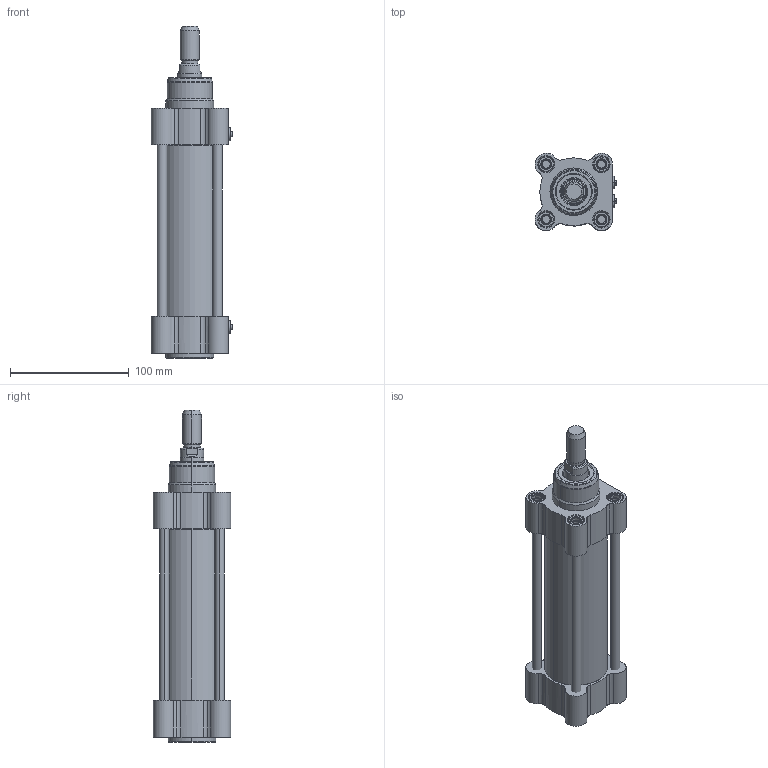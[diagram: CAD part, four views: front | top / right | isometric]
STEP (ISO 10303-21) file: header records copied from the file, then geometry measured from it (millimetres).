
FILE_DESCRIPTION (( 'STEP AP203' ), '1' );
FILE_NAME ('CTMI50-100.STEP', '2020-03-26T19:20:02', ( '' ), ( '' ), 'SwSTEP 2.0', 'SolidWorks 2019', '' );
FILE_SCHEMA (( 'CONFIG_CONTROL_DESIGN' ));
Length unit declared in the file: millimetre
Products named in the file (1): CTMI50-100
Bounding box: 68.69 x 64.99 x 279 mm (x, y, z)
Surface area: 141334.6 mm2 (no closed solid volume)
Topology: 0 solids, 26 shells, 733 faces, 1698 edges, 1052 vertices
Faces by surface type: cone 229, cylinder 204, plane 196, torus 88, bspline 16
Entity records: 26997 total; most frequent: CARTESIAN_POINT 11533, ORIENTED_EDGE 3340, DIRECTION 2906, EDGE_CURVE 1698, AXIS2_PLACEMENT_3D 1202, VERTEX_POINT 1052, EDGE_LOOP 806, ADVANCED_FACE 733
